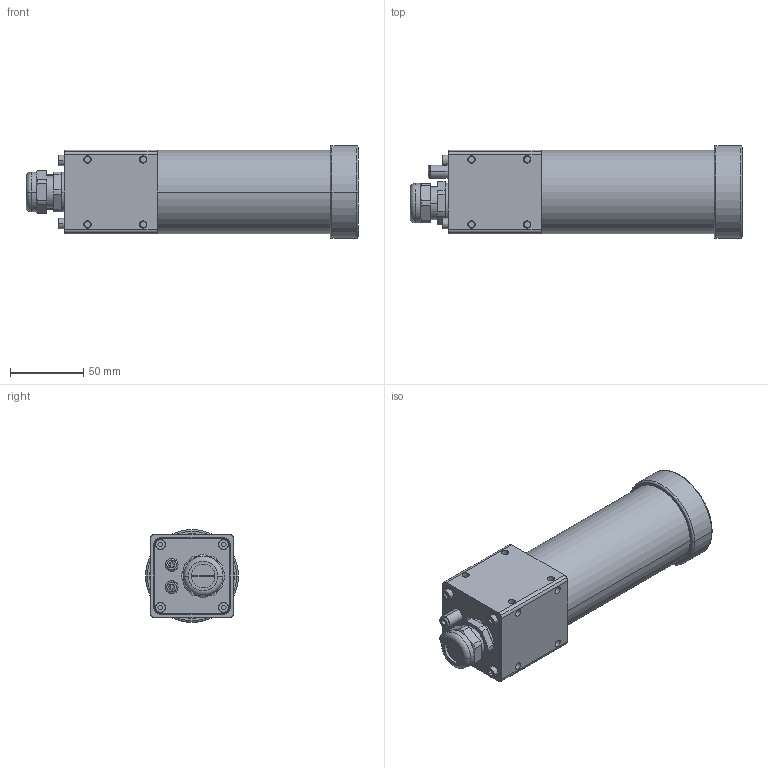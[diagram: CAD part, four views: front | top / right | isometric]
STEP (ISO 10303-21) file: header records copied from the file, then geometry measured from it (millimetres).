
FILE_DESCRIPTION( ( 'Cobalt' ), 'Build 841' );
FILE_NAME( 'C:\Documents and Settings\Dave\My Documents\Camera enclosures\22C\22C-AG (Cognex Micro)\Documentation\22C-AG (Cognex).stp', ' ', ( 'Chris McGeary' ), ( 'Allison Park Group, Inc.' ), 'ACIS Interop', 'Ashlar, Incorporated', 'Cobalt BY ASHLAR, INCORPORATED' );
FILE_SCHEMA( ( 'automotive_design' ) );
Length unit declared in the file: inch
Products named in the file (34): 1; 2; 3; 4; 5; 6; 7; 8; 9; 10; 11; 12; 13; 14; 15; 16; 17; 18; 19; 20; 21; 22; 23; 24; 25; 26; 27; 28; 29; 30; 31; 32; 33; 34
Bounding box: 226.95 x 63.5 x 63.5 mm (x, y, z)
Volume: 308918.5 mm3; surface area: 149729 mm2
Topology: 34 solids, 34 shells, 1094 faces, 2420 edges, 1457 vertices
Faces by surface type: cylinder 451, plane 335, cone 242, torus 34, sphere 24, bspline 8
Entity records: 60299 total; most frequent: CARTESIAN_POINT 6349, DIRECTION 5783, STYLED_ITEM 5005, PRESENTATION_STYLE_ASSIGNMENT 5005, COLOUR_RGB 5005, ORIENTED_EDGE 4840, EDGE_CURVE 2420, CURVE_STYLE 2420
